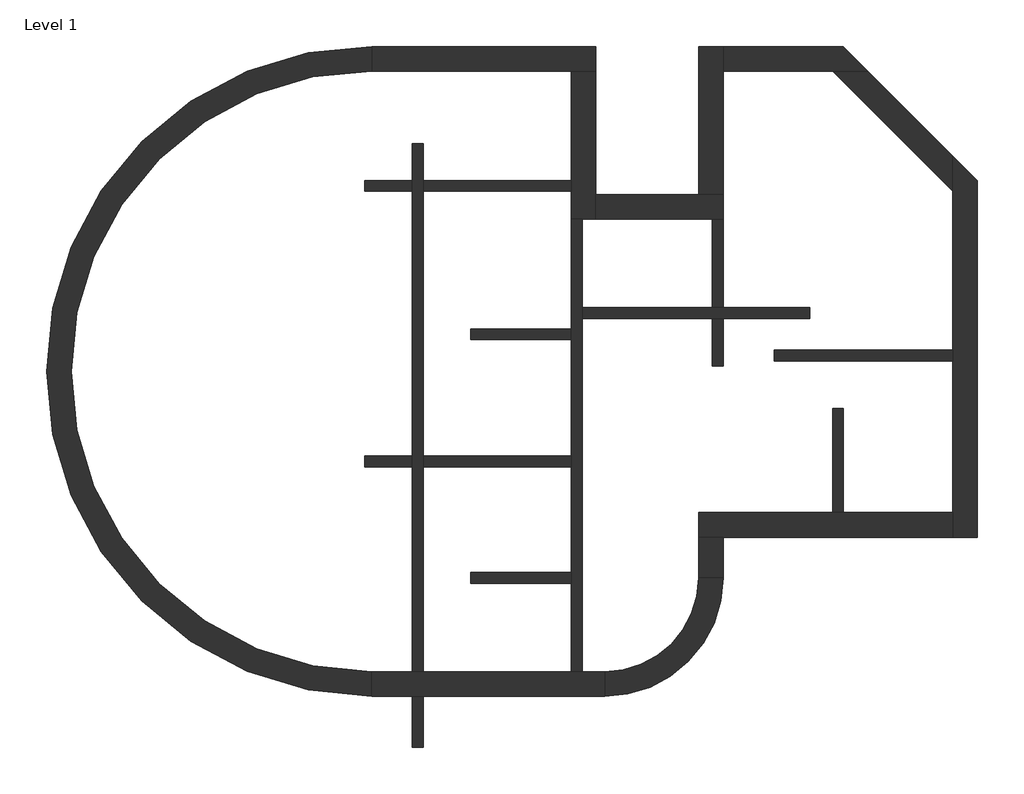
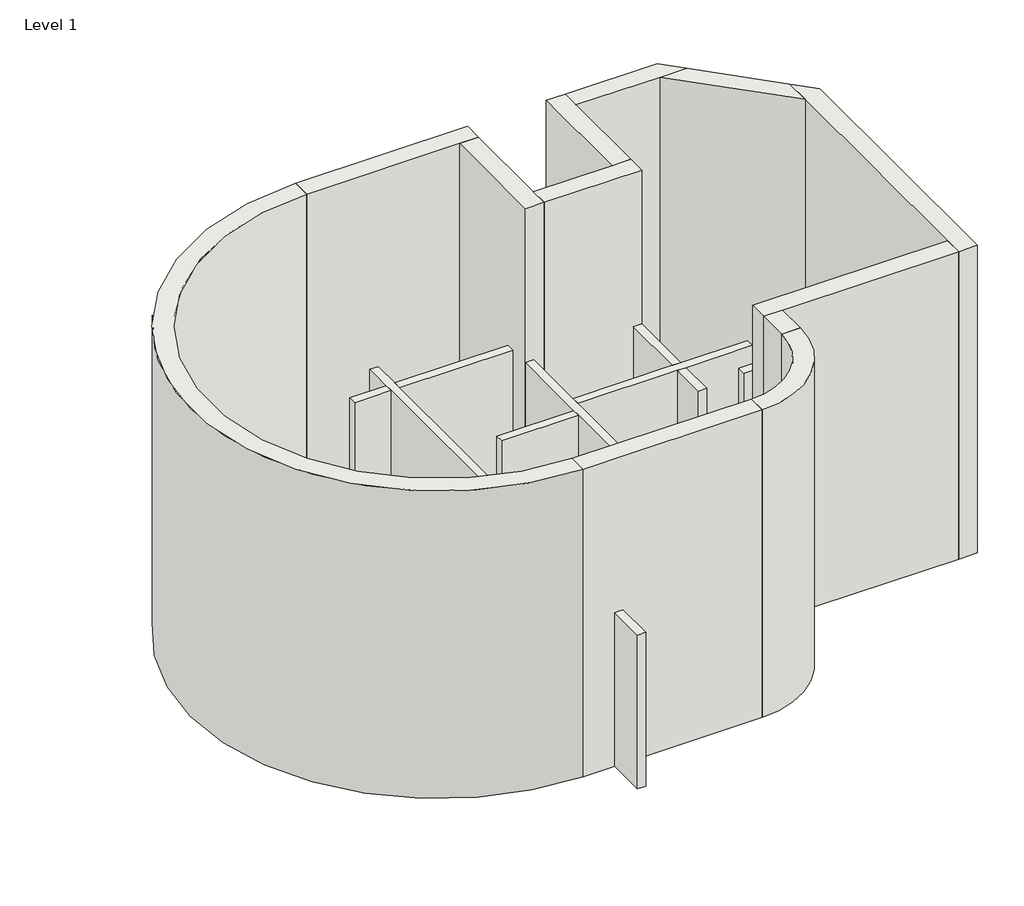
# One storey: 22 walls.
"""IFC4 building model written with IfcOpenShell, lengths in millimetres."""

from ifc_helpers import new_model, si_unit, point, frame_2d, origin, origin_with_axes, place, context, project, spatial, polyline, circle_curve, trimmed, segment, composite_curve, outline, extrude, faceted_brep, element, save

model = new_model("IFC4")

# Units and contexts
model_context = context("Model", 3, world=origin())
ifc_project = project(units=[si_unit("LENGTHUNIT", "METRE", prefix="MILLI")], contexts=[model_context])

# Site, building, storey
site = spatial("IfcSite", under=ifc_project)
building = spatial("IfcBuilding", under=site)
storey = spatial("IfcBuildingStorey", under=building, Name="Level 1", Elevation=0.0)

# Walls
placement = place(None, origin())
element("IfcWall", 1, ObjectType="Exterior - Brick on Mtl. Stud", at=placement, inside=storey, context=model_context, shape_type="Brep", body=[
    faceted_brep([(-4352.987982, 5164.0459322, 0.0), (-1481.200482, 5164.0459322, 0.0), (-1128.775482, 5164.0459322, 0.0), (-1128.775482, 5164.0459322, 6096.0), (-1481.200482, 5164.0459322, 6096.0), (-4352.987982, 5164.0459322, 6096.0), (-4352.987982, 5516.4709322, 0.0), (-4352.987982, 5516.4709322, 6096.0), (-1128.775482, 5516.4709322, 6096.0), (-1128.775482, 5516.4709322, 0.0)], [[[0, 1, 2, 3, 4, 5]], [[6, 7, 8, 9]], [[2, 1, 0, 6, 9]], [[5, 4, 3, 8, 7]], [[0, 5, 7, 6]], [[3, 2, 9, 8]]]),
])
element("IfcWall", 2, ObjectType="Exterior - Brick on Mtl. Stud", at=placement, inside=storey, context=model_context, shape_type="Brep", body=[
    faceted_brep([(-1481.200482, 5164.0459322, 0.0), (-1481.200482, 3589.2459322, 0.0), (-1481.200482, 3433.6709322, 0.0), (-1481.200482, 3030.4459322, 0.0), (-1481.200482, 3030.4459322, 3048.0), (-1481.200482, 3030.4459322, 6096.0), (-1481.200482, 5164.0459322, 6096.0), (-1128.775482, 5164.0459322, 0.0), (-1128.775482, 5164.0459322, 6096.0), (-1128.775482, 3382.8709322, 6096.0), (-1128.775482, 3030.4459322, 6096.0), (-1128.775482, 3030.4459322, 0.0), (-1128.775482, 3382.8709322, 0.0), (-1325.625482, 3030.4459322, 0.0)], [[[0, 1, 2, 3, 4, 5, 6]], [[7, 8, 9, 10, 11, 12]], [[3, 2, 1, 0, 7, 12, 11, 13]], [[6, 5, 10, 9, 8]], [[0, 6, 8, 7]], [[3, 13, 11, 10, 5, 4]]]),
])
element("IfcWall", 3, ObjectType="Exterior - Brick on Mtl. Stud", at=placement, inside=storey, context=model_context, shape_type="Brep", body=[
    faceted_brep([(-1128.775482, 3030.4459322, 0.0), (544.449518, 3030.4459322, 0.0), (700.024518, 3030.4459322, 0.0), (700.024518, 3030.4459322, 3048.0), (700.024518, 3030.4459322, 6096.0), (-1128.775482, 3030.4459322, 6096.0), (-1128.775482, 3382.8709322, 0.0), (-1128.775482, 3382.8709322, 6096.0), (347.599518, 3382.8709322, 6096.0), (700.024518, 3382.8709322, 6096.0), (700.024518, 3382.8709322, 0.0), (347.599518, 3382.8709322, 0.0)], [[[0, 1, 2, 3, 4, 5]], [[6, 7, 8, 9, 10, 11]], [[2, 1, 0, 6, 11, 10]], [[5, 4, 9, 8, 7]], [[0, 5, 7, 6]], [[2, 10, 9, 4, 3]]]),
])
element("IfcWall", 4, ObjectType="Exterior - Brick on Mtl. Stud", at=placement, inside=storey, context=model_context, shape_type="Brep", body=[
    faceted_brep([(700.024518, 3382.8709322, 6096.0), (700.024518, 3382.8709322, 0.0), (700.024518, 5164.0459322, 0.0), (700.024518, 5516.4709322, 0.0), (700.024518, 5516.4709322, 6096.0), (700.024518, 5164.0459322, 6096.0), (347.599518, 3382.8709322, 0.0), (347.599518, 3382.8709322, 6096.0), (347.599518, 5516.4709322, 6096.0), (347.599518, 5516.4709322, 0.0)], [[[0, 1, 2, 3, 4, 5]], [[6, 7, 8, 9]], [[3, 2, 1, 6, 9]], [[0, 5, 4, 8, 7]], [[4, 3, 9, 8]], [[0, 7, 6, 1]]]),
])
element("IfcWall", 5, ObjectType="Exterior - Brick on Mtl. Stud", at=placement, inside=storey, context=model_context, shape_type="Brep", body=[
    faceted_brep([(700.024518, 5164.0459322, 0.0), (2279.6224106, 5164.0459322, 0.0), (2778.0266253, 5164.0459322, 0.0), (2778.0266253, 5164.0459322, 6096.0), (2279.6224106, 5164.0459322, 6096.0), (700.024518, 5164.0459322, 6096.0), (700.024518, 5516.4709322, 0.0), (700.024518, 5516.4709322, 6096.0), (2425.6016253, 5516.4709322, 6096.0), (2425.6016253, 5516.4709322, 0.0)], [[[0, 1, 2, 3, 4, 5]], [[6, 7, 8, 9]], [[2, 1, 0, 6, 9]], [[5, 4, 3, 8, 7]], [[0, 5, 7, 6]], [[3, 2, 9, 8]]]),
])
element("IfcWall", 6, ObjectType="Exterior - Brick on Mtl. Stud", at=placement, inside=storey, context=model_context, shape_type="Brep", body=[
    faceted_brep([(4005.199518, -1189.1290678, 0.0), (2430.399518, -1189.1290678, 0.0), (2274.824518, -1189.1290678, 0.0), (347.599518, -1189.1290678, 0.0), (347.599518, -1189.1290678, 6096.0), (4005.199518, -1189.1290678, 6096.0), (4005.199518, -1541.5540678, 0.0), (4005.199518, -1541.5540678, 6096.0), (700.024518, -1541.5540678, 6096.0), (347.599518, -1541.5540678, 6096.0), (347.599518, -1541.5540678, 0.0), (700.024518, -1541.5540678, 0.0)], [[[0, 1, 2, 3, 4, 5]], [[6, 7, 8, 9, 10, 11]], [[3, 2, 1, 0, 6, 11, 10]], [[5, 4, 9, 8, 7]], [[0, 5, 7, 6]], [[4, 3, 10, 9]]]),
])
element("IfcWall", 7, ObjectType="Exterior - Brick on Mtl. Stud", at=placement, inside=storey, context=model_context, shape_type="SweptSolid", body=[
    extrude(outline(polyline([(347.599518, -2127.3415678), (347.599518, -1541.5540678), (700.024518, -1541.5540678), (700.024518, -2127.3415678), (347.599518, -2127.3415678)])), origin_with_axes(), (0.0, 0.0, 1.0), 6096.0),
])
element("IfcWall", 8, ObjectType="Exterior - Brick on Mtl. Stud", at=placement, inside=storey, context=model_context, shape_type="Brep", body=[
    faceted_brep([(-1000.187982, -3475.1290678, 0.0), (-1325.625482, -3475.1290678, 0.0), (-1481.200482, -3475.1290678, 0.0), (-3611.625482, -3475.1290678, 0.0), (-3767.200482, -3475.1290678, 0.0), (-4352.987982, -3475.1290678, 0.0), (-4352.987982, -3475.1290678, 6096.0), (-1000.187982, -3475.1290678, 6096.0), (-1000.187982, -3827.5540678, 0.0), (-1000.187982, -3827.5540678, 6096.0), (-4352.987982, -3827.5540678, 6096.0), (-4352.987982, -3827.5540678, 0.0), (-3767.200482, -3827.5540678, 0.0), (-3611.625482, -3827.5540678, 0.0)], [[[0, 1, 2, 3, 4, 5, 6, 7]], [[8, 9, 10, 11, 12, 13]], [[5, 4, 3, 2, 1, 0, 8, 13, 12, 11]], [[6, 5, 11, 10]], [[7, 6, 10, 9]], [[0, 7, 9, 8]]]),
])
element("IfcWall", 9, ObjectType="Exterior - Brick on Mtl. Stud", at=placement, inside=storey, context=model_context, shape_type="SweptSolid", body=[
    extrude(outline(composite_curve([segment(polyline([(-4352.987982, 5516.4709322), (-4352.987982, 5164.0459322)]), True, "CONTINUOUS"), segment(trimmed(circle_curve(frame_2d((-4352.987982, 844.4584322)), 4319.5875), [point((-4352.987982, 5164.0459322))], [point((-4352.987982, -3475.1290678))], True, "CARTESIAN"), True, "CONTINUOUS"), segment(polyline([(-4352.987982, -3475.1290678), (-4352.987982, -3827.5540678)]), True, "CONTINUOUS"), segment(trimmed(circle_curve(frame_2d((-4352.987982, 844.4584322)), 4672.0125), [point((-4352.987982, -3827.5540678))], [point((-4352.987982, 5516.4709322))], False, "CARTESIAN"), True, "CONTINUOUS")], self_intersect=False)), origin_with_axes(), (0.0, 0.0, 1.0), 6096.0),
])
element("IfcWall", 10, ObjectType="Exterior - Brick on Mtl. Stud", at=placement, inside=storey, context=model_context, shape_type="Brep", body=[
    faceted_brep([(4005.199518, 3936.8730396, 0.0), (4005.199518, 3438.4688248, 0.0), (4005.199518, 1150.8459322, 0.0), (4005.199518, 995.2709322, 0.0), (4005.199518, -1189.1290678, 0.0), (4005.199518, -1541.5540678, 0.0), (4005.199518, -1541.5540678, 6096.0), (4005.199518, -1189.1290678, 6096.0), (4005.199518, 3438.4688248, 6096.0), (4005.199518, 3936.8730396, 6096.0), (4357.624518, 3584.4480396, 0.0), (4357.624518, 3584.4480396, 6096.0), (4357.624518, -1541.5540678, 6096.0), (4357.624518, -1541.5540678, 0.0)], [[[0, 1, 2, 3, 4, 5, 6, 7, 8, 9]], [[10, 11, 12, 13]], [[5, 4, 3, 2, 1, 0, 10, 13]], [[9, 8, 7, 6, 12, 11]], [[6, 5, 13, 12]], [[0, 9, 11, 10]]]),
])
element("IfcWall", 11, ObjectType="Exterior - Brick on Mtl. Stud", at=placement, inside=storey, context=model_context, shape_type="SweptSolid", body=[
    extrude(outline(composite_curve([segment(polyline([(-1000.187982, -3827.5540678), (-1000.187982, -3475.1290678)]), True, "CONTINUOUS"), segment(trimmed(circle_curve(frame_2d((-1000.187982, -2127.3415678)), 1347.7875), [point((-1000.187982, -3475.1290678))], [point((347.599518, -2127.3415678))], True, "CARTESIAN"), True, "CONTINUOUS"), segment(polyline([(347.599518, -2127.3415678), (700.024518, -2127.3415678)]), True, "CONTINUOUS"), segment(trimmed(circle_curve(frame_2d((-1000.187982, -2127.3415678)), 1700.2125), [point((700.024518, -2127.3415678))], [point((-1000.187982, -3827.5540678))], False, "CARTESIAN"), True, "CONTINUOUS")], self_intersect=False)), origin_with_axes(), (0.0, 0.0, 1.0), 6096.0),
])
element("IfcWall", 12, ObjectType="Exterior - Brick on Mtl. Stud", at=placement, inside=storey, context=model_context, shape_type="SweptSolid", body=[
    extrude(outline(polyline([(4005.199518, 3438.4688248), (2279.6224106, 5164.0459322), (2778.0266253, 5164.0459322), (4005.199518, 3936.8730396), (4005.199518, 3438.4688248)])), origin_with_axes(), (0.0, 0.0, 1.0), 6096.0),
])
element("IfcWall", 13, ObjectType="Interior - 6 1/8\" Partition (2-hr)", at=placement, inside=storey, context=model_context, shape_type="Brep", body=[
    faceted_brep([(-1325.625482, -3475.1290678, 0.0), (-1325.625482, 1604.8709322, 0.0), (-1325.625482, 1760.4459322, 0.0), (-1325.625482, 3030.4459322, 0.0), (-1325.625482, 3030.4459322, 3048.0), (-1325.625482, 1760.4459322, 3048.0), (-1325.625482, 1604.8709322, 3048.0), (-1325.625482, -3475.1290678, 3048.0), (-1481.200482, -3475.1290678, 0.0), (-1481.200482, -3475.1290678, 3048.0), (-1481.200482, -2205.1290678, 3048.0), (-1481.200482, -2049.5540678, 3048.0), (-1481.200482, -528.7290678, 3048.0), (-1481.200482, -373.1540678, 3048.0), (-1481.200482, 1300.0709322, 3048.0), (-1481.200482, 1455.6459322, 3048.0), (-1481.200482, 3030.4459322, 3048.0), (-1481.200482, 3030.4459322, 0.0), (-1481.200482, 1455.6459322, 0.0), (-1481.200482, 1300.0709322, 0.0), (-1481.200482, -373.1540678, 0.0), (-1481.200482, -528.7290678, 0.0), (-1481.200482, -2049.5540678, 0.0), (-1481.200482, -2205.1290678, 0.0)], [[[0, 1, 2, 3, 4, 5, 6, 7]], [[8, 9, 10, 11, 12, 13, 14, 15, 16, 17, 18, 19, 20, 21, 22, 23]], [[3, 2, 1, 0, 8, 23, 22, 21, 20, 19, 18, 17]], [[7, 6, 5, 4, 16, 15, 14, 13, 12, 11, 10, 9]], [[4, 3, 17, 16]], [[0, 7, 9, 8]]]),
])
element("IfcWall", 14, ObjectType="Interior - 6 1/8\" Partition (2-hr)", at=placement, inside=storey, context=model_context, shape_type="SweptSolid", body=[
    extrude(outline(polyline([(2430.399518, 311.0584322), (2430.399518, -1189.1290678), (2274.824518, -1189.1290678), (2274.824518, 311.0584322), (2430.399518, 311.0584322)])), origin_with_axes(), (0.0, 0.0, 1.0), 3048.0),
])
element("IfcWall", 15, ObjectType="Interior - 6 1/8\" Partition (2-hr)", at=placement, inside=storey, context=model_context, shape_type="SweptSolid", body=[
    extrude(outline(polyline([(1438.212018, 1150.8459322), (4005.199518, 1150.8459322), (4005.199518, 995.2709322), (1438.212018, 995.2709322), (1438.212018, 1150.8459322)])), origin_with_axes(), (0.0, 0.0, 1.0), 3048.0),
])
element("IfcWall", 16, ObjectType="Interior - 6 1/8\" Partition (2-hr)", at=placement, inside=storey, context=model_context, shape_type="Brep", body=[
    faceted_brep([(-3611.625482, 4121.0584322, 0.0), (-3611.625482, 4121.0584322, 3048.0), (-3611.625482, 3589.2459322, 3048.0), (-3611.625482, 3433.6709322, 3048.0), (-3611.625482, -373.1540678, 3048.0), (-3611.625482, -528.7290678, 3048.0), (-3611.625482, -3475.1290678, 3048.0), (-3611.625482, -3475.1290678, 0.0), (-3611.625482, -528.7290678, 0.0), (-3611.625482, -373.1540678, 0.0), (-3611.625482, 3433.6709322, 0.0), (-3611.625482, 3589.2459322, 0.0), (-3767.200482, 4121.0584322, 3048.0), (-3767.200482, 4121.0584322, 0.0), (-3767.200482, 3589.2459322, 0.0), (-3767.200482, 3433.6709322, 0.0), (-3767.200482, -373.1540678, 0.0), (-3767.200482, -528.7290678, 0.0), (-3767.200482, -3475.1290678, 0.0), (-3767.200482, -3475.1290678, 3048.0), (-3767.200482, -528.7290678, 3048.0), (-3767.200482, -373.1540678, 3048.0), (-3767.200482, 3433.6709322, 3048.0), (-3767.200482, 3589.2459322, 3048.0)], [[[0, 1, 2, 3, 4, 5, 6, 7, 8, 9, 10, 11]], [[12, 13, 14, 15, 16, 17, 18, 19, 20, 21, 22, 23]], [[13, 0, 11, 10, 9, 8, 7, 18, 17, 16, 15, 14]], [[1, 0, 13, 12]], [[1, 12, 23, 22, 21, 20, 19, 6, 5, 4, 3, 2]], [[7, 6, 19, 18]]]),
    faceted_brep([(-3611.625482, -4565.7415678, 3048.0), (-3611.625482, -4565.7415678, 0.0), (-3611.625482, -3827.5540678, 0.0), (-3611.625482, -3827.5540678, 3048.0), (-3767.200482, -4565.7415678, 0.0), (-3767.200482, -4565.7415678, 3048.0), (-3767.200482, -3827.5540678, 3048.0), (-3767.200482, -3827.5540678, 0.0)], [[[0, 1, 2, 3]], [[4, 5, 6, 7]], [[1, 4, 7, 2]], [[5, 0, 3, 6]], [[1, 0, 5, 4]], [[3, 2, 7, 6]]]),
])
element("IfcWall", 17, ObjectType="Interior - 6 1/8\" Partition (2-hr)", at=placement, inside=storey, context=model_context, shape_type="SweptSolid", body=[
    extrude(outline(polyline([(-2927.412982, 1455.6459322), (-1481.200482, 1455.6459322), (-1481.200482, 1300.0709322), (-2927.412982, 1300.0709322), (-2927.412982, 1455.6459322)])), origin_with_axes(), (0.0, 0.0, 1.0), 3048.0),
])
element("IfcWall", 18, ObjectType="Interior - 6 1/8\" Partition (2-hr)", at=placement, inside=storey, context=model_context, shape_type="SweptSolid", body=[
    extrude(outline(polyline([(-4451.412982, -528.7290678), (-4451.412982, -373.1540678), (-3767.200482, -373.1540678), (-3767.200482, -528.7290678), (-4451.412982, -528.7290678)])), origin_with_axes(), (0.0, 0.0, 1.0), 3048.0),
    extrude(outline(polyline([(-1481.200482, -373.1540678), (-1481.200482, -528.7290678), (-3611.625482, -528.7290678), (-3611.625482, -373.1540678), (-1481.200482, -373.1540678)])), origin_with_axes(), (0.0, 0.0, 1.0), 3048.0),
])
element("IfcWall", 19, ObjectType="Interior - 6 1/8\" Partition (2-hr)", at=placement, inside=storey, context=model_context, shape_type="SweptSolid", body=[
    extrude(outline(polyline([(-2927.412982, -2049.5540678), (-1481.200482, -2049.5540678), (-1481.200482, -2205.1290678), (-2927.412982, -2205.1290678), (-2927.412982, -2049.5540678)])), origin_with_axes(), (0.0, 0.0, 1.0), 3048.0),
])
element("IfcWall", 20, ObjectType="Interior - 6 1/8\" Partition (2-hr)", at=placement, inside=storey, context=model_context, shape_type="SweptSolid", body=[
    extrude(outline(polyline([(-4451.412982, 3433.6709322), (-4451.412982, 3589.2459322), (-3767.200482, 3589.2459322), (-3767.200482, 3433.6709322), (-4451.412982, 3433.6709322)])), origin_with_axes(), (0.0, 0.0, 1.0), 3048.0),
    extrude(outline(polyline([(-1481.200482, 3589.2459322), (-1481.200482, 3433.6709322), (-3611.625482, 3433.6709322), (-3611.625482, 3589.2459322), (-1481.200482, 3589.2459322)])), origin_with_axes(), (0.0, 0.0, 1.0), 3048.0),
])
element("IfcWall", 21, ObjectType="Interior - 6 1/8\" Partition (2-hr)", at=placement, inside=storey, context=model_context, shape_type="Brep", body=[
    faceted_brep([(-1325.625482, 1604.8709322, 0.0), (544.449518, 1604.8709322, 0.0), (700.024518, 1604.8709322, 0.0), (1949.387018, 1604.8709322, 0.0), (1949.387018, 1604.8709322, 3048.0), (700.024518, 1604.8709322, 3048.0), (544.449518, 1604.8709322, 3048.0), (-1325.625482, 1604.8709322, 3048.0), (-1325.625482, 1760.4459322, 0.0), (-1325.625482, 1760.4459322, 3048.0), (544.449518, 1760.4459322, 3048.0), (700.024518, 1760.4459322, 3048.0), (1949.387018, 1760.4459322, 3048.0), (1949.387018, 1760.4459322, 0.0), (700.024518, 1760.4459322, 0.0), (544.449518, 1760.4459322, 0.0)], [[[0, 1, 2, 3, 4, 5, 6, 7]], [[8, 9, 10, 11, 12, 13, 14, 15]], [[3, 2, 1, 0, 8, 15, 14, 13]], [[4, 3, 13, 12]], [[7, 6, 5, 4, 12, 11, 10, 9]], [[0, 7, 9, 8]]]),
])
element("IfcWall", 22, ObjectType="Interior - 6 1/8\" Partition (2-hr)", at=placement, inside=storey, context=model_context, shape_type="SweptSolid", body=[
    extrude(outline(polyline([(700.024518, 920.6584322), (544.449518, 920.6584322), (544.449518, 1604.8709322), (700.024518, 1604.8709322), (700.024518, 920.6584322)])), origin_with_axes(), (0.0, 0.0, 1.0), 3048.0),
    extrude(outline(polyline([(544.449518, 3030.4459322), (700.024518, 3030.4459322), (700.024518, 1760.4459322), (544.449518, 1760.4459322), (544.449518, 3030.4459322)])), origin_with_axes(), (0.0, 0.0, 1.0), 3048.0),
])

save(model, "model.ifc")
